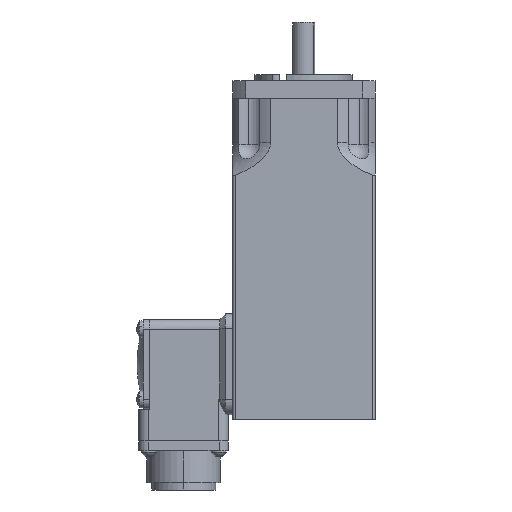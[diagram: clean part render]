
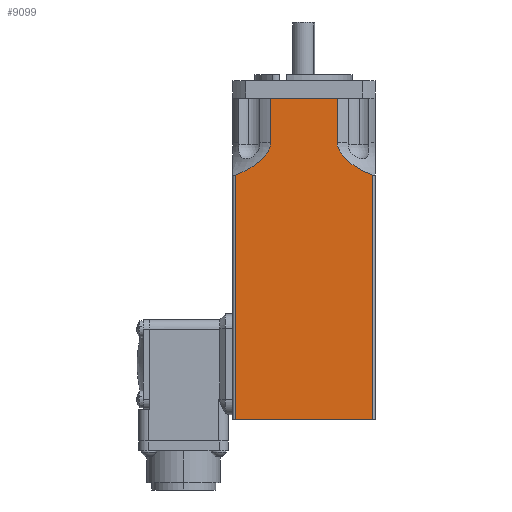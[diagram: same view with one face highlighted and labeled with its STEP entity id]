
A CAD part, left-side view. The second image highlights one B-rep face of the part: STEP entity #9099.
In plain terms, the highlighted planar face has unit normal (-1, 0, 0).
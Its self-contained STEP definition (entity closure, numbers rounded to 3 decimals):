
#9099 = ADVANCED_FACE ( 'NONE', ( #11174 ), #11173, .T. ) ;
#9100 = EDGE_LOOP ( 'NONE', ( #9101, #9102, #9104, #9105, #9107, #9108, #9109, #9111 ) ) ;
#9101 = ORIENTED_EDGE ( 'NONE', *, *, #9179, .T. ) ;
#9102 = ORIENTED_EDGE ( 'NONE', *, *, #9103, .T. ) ;
#9103 = EDGE_CURVE ( 'NONE', #9177, #9186, #11278, .T. ) ;
#9104 = ORIENTED_EDGE ( 'NONE', *, *, #9192, .T. ) ;
#9105 = ORIENTED_EDGE ( 'NONE', *, *, #9106, .T. ) ;
#9106 = EDGE_CURVE ( 'NONE', #9190, #9221, #11418, .T. ) ;
#9107 = ORIENTED_EDGE ( 'NONE', *, *, #9181, .T. ) ;
#9108 = ORIENTED_EDGE ( 'NONE', *, *, #9164, .T. ) ;
#9109 = ORIENTED_EDGE ( 'NONE', *, *, #9110, .F. ) ;
#9110 = EDGE_CURVE ( 'NONE', #9129, #9162, #11414, .T. ) ;
#9111 = ORIENTED_EDGE ( 'NONE', *, *, #9128, .T. ) ;
#9126 = VERTEX_POINT ( 'NONE', #11370 ) ;
#9128 = EDGE_CURVE ( 'NONE', #9129, #9126, #11369, .T. ) ;
#9129 = VERTEX_POINT ( 'NONE', #11427 ) ;
#9162 = VERTEX_POINT ( 'NONE', #11308 ) ;
#9164 = EDGE_CURVE ( 'NONE', #9165, #9162, #11289, .T. ) ;
#9165 = VERTEX_POINT ( 'NONE', #11406 ) ;
#9177 = VERTEX_POINT ( 'NONE', #11455 ) ;
#9179 = EDGE_CURVE ( 'NONE', #9126, #9177, #11454, .T. ) ;
#9181 = EDGE_CURVE ( 'NONE', #9221, #9165, #11238, .T. ) ;
#9186 = VERTEX_POINT ( 'NONE', #11223 ) ;
#9190 = VERTEX_POINT ( 'NONE', #11217 ) ;
#9192 = EDGE_CURVE ( 'NONE', #9186, #9190, #11216, .T. ) ;
#9221 = VERTEX_POINT ( 'NONE', #11622 ) ;
#11112 = DIRECTION ( 'NONE',  ( 0., -1., 0. ) ) ;
#11113 = DIRECTION ( 'NONE',  ( -1., 0., 0. ) ) ;
#11114 = AXIS2_PLACEMENT_3D ( 'NONE', #11172, #11113, #11112 ) ;
#11172 = CARTESIAN_POINT ( 'NONE',  ( -29., -28., -133. ) ) ;
#11173 = PLANE ( 'NONE',  #11114 ) ;
#11174 = FACE_OUTER_BOUND ( 'NONE', #9100, .T. ) ;
#11213 = DIRECTION ( 'NONE',  ( 0., 0., 1. ) ) ;
#11214 = VECTOR ( 'NONE', #11213, 1000. ) ;
#11215 = CARTESIAN_POINT ( 'NONE',  ( -29., -13.528, 22.566 ) ) ;
#11216 = LINE ( 'NONE', #11215, #11214 ) ;
#11217 = CARTESIAN_POINT ( 'NONE',  ( -29., -13.528, -1. ) ) ;
#11223 = CARTESIAN_POINT ( 'NONE',  ( -29., -13.528, -19. ) ) ;
#11235 = DIRECTION ( 'NONE',  ( 0., 0., -1. ) ) ;
#11236 = VECTOR ( 'NONE', #11235, 1000. ) ;
#11237 = CARTESIAN_POINT ( 'NONE',  ( -29., 13.528, 22.566 ) ) ;
#11238 = LINE ( 'NONE', #11237, #11236 ) ;
#11260 = DIRECTION ( 'NONE',  ( 0., 0., 1. ) ) ;
#11261 = VECTOR ( 'NONE', #11260, 1000. ) ;
#11262 = CARTESIAN_POINT ( 'NONE',  ( -29., -13.528, -19. ) ) ;
#11263 = CARTESIAN_POINT ( 'NONE',  ( -29., -13.528, -19.218 ) ) ;
#11264 = CARTESIAN_POINT ( 'NONE',  ( -29., -13.539, -19.438 ) ) ;
#11265 = CARTESIAN_POINT ( 'NONE',  ( -29., -13.584, -19.871 ) ) ;
#11266 = CARTESIAN_POINT ( 'NONE',  ( -29., -13.617, -20.086 ) ) ;
#11267 = CARTESIAN_POINT ( 'NONE',  ( -29., -13.747, -20.722 ) ) ;
#11268 = CARTESIAN_POINT ( 'NONE',  ( -29., -13.873, -21.137 ) ) ;
#11269 = CARTESIAN_POINT ( 'NONE',  ( -29., -14.356, -22.359 ) ) ;
#11270 = CARTESIAN_POINT ( 'NONE',  ( -29., -14.797, -23.106 ) ) ;
#11271 = CARTESIAN_POINT ( 'NONE',  ( -29., -15.565, -24.165 ) ) ;
#11272 = CARTESIAN_POINT ( 'NONE',  ( -29., -15.838, -24.505 ) ) ;
#11273 = CARTESIAN_POINT ( 'NONE',  ( -29., -16.406, -25.158 ) ) ;
#11274 = CARTESIAN_POINT ( 'NONE',  ( -29., -16.701, -25.473 ) ) ;
#11275 = CARTESIAN_POINT ( 'NONE',  ( -29., -17.618, -26.388 ) ) ;
#11276 = CARTESIAN_POINT ( 'NONE',  ( -29., -18.267, -26.959 ) ) ;
#11277 = CARTESIAN_POINT ( 'NONE',  ( -29., -28., -32.426 ) ) ;
#11278 = B_SPLINE_CURVE_WITH_KNOTS ( 'NONE', 3,
 ( #11277, #11412, #11411, #11410, #11409, #11408, #11407, #11276, #11275, #11274, #11273, #11272, #11271, #11270, #11269, #11268, #11267, #11266, #11265, #11264, #11263, #11262 ),
 .UNSPECIFIED., .F., .F.,
 ( 4, 2, 2, 2, 2, 2, 2, 2, 2, 2, 4 ),
 ( 0.102, 0.107, 0.109, 0.112, 0.115, 0.116, 0.117, 0.12, 0.121, 0.122, 0.122 ),
 .UNSPECIFIED. ) ;
#11289 = B_SPLINE_CURVE_WITH_KNOTS ( 'NONE', 3,
 ( #11400, #11399, #11398, #11397, #11396, #11395, #11394, #11393, #11392, #11391, #11390, #11389, #11388, #11387, #11386, #11385, #11384, #11383, #11382, #11470, #11469, #11468, #11467, #11466 ),
 .UNSPECIFIED., .F., .F.,
 ( 4, 2, 2, 2, 2, 2, 2, 2, 2, 2, 2, 4 ),
 ( 0.004, 0.005, 0.006, 0.007, 0.009, 0.011, 0.013, 0.014, 0.017, 0.019, 0.022, 0.024 ),
 .UNSPECIFIED. ) ;
#11308 = CARTESIAN_POINT ( 'NONE',  ( -29., 28., -32.426 ) ) ;
#11369 = LINE ( 'NONE', #11430, #11429 ) ;
#11370 = CARTESIAN_POINT ( 'NONE',  ( -29., -28., -132. ) ) ;
#11382 = CARTESIAN_POINT ( 'NONE',  ( -29., 22.503, -29.925 ) ) ;
#11383 = CARTESIAN_POINT ( 'NONE',  ( -29., 21.764, -29.484 ) ) ;
#11384 = CARTESIAN_POINT ( 'NONE',  ( -29., 20.327, -28.542 ) ) ;
#11385 = CARTESIAN_POINT ( 'NONE',  ( -29., 19.628, -28.041 ) ) ;
#11386 = CARTESIAN_POINT ( 'NONE',  ( -29., 18.614, -27.235 ) ) ;
#11387 = CARTESIAN_POINT ( 'NONE',  ( -29., 18.282, -26.958 ) ) ;
#11388 = CARTESIAN_POINT ( 'NONE',  ( -29., 17.631, -26.382 ) ) ;
#11389 = CARTESIAN_POINT ( 'NONE',  ( -29., 17.313, -26.084 ) ) ;
#11390 = CARTESIAN_POINT ( 'NONE',  ( -29., 16.392, -25.164 ) ) ;
#11391 = CARTESIAN_POINT ( 'NONE',  ( -29., 15.82, -24.516 ) ) ;
#11392 = CARTESIAN_POINT ( 'NONE',  ( -29., 15.057, -23.465 ) ) ;
#11393 = CARTESIAN_POINT ( 'NONE',  ( -29., 14.818, -23.099 ) ) ;
#11394 = CARTESIAN_POINT ( 'NONE',  ( -29., 14.385, -22.339 ) ) ;
#11395 = CARTESIAN_POINT ( 'NONE',  ( -29., 14.194, -21.949 ) ) ;
#11396 = CARTESIAN_POINT ( 'NONE',  ( -29., 13.876, -21.143 ) ) ;
#11397 = CARTESIAN_POINT ( 'NONE',  ( -29., 13.748, -20.727 ) ) ;
#11398 = CARTESIAN_POINT ( 'NONE',  ( -29., 13.572, -19.866 ) ) ;
#11399 = CARTESIAN_POINT ( 'NONE',  ( -29., 13.528, -19.434 ) ) ;
#11400 = CARTESIAN_POINT ( 'NONE',  ( -29., 13.528, -19. ) ) ;
#11406 = CARTESIAN_POINT ( 'NONE',  ( -29., 13.528, -19. ) ) ;
#11407 = CARTESIAN_POINT ( 'NONE',  ( -29., -19.626, -28.04 ) ) ;
#11408 = CARTESIAN_POINT ( 'NONE',  ( -29., -20.333, -28.547 ) ) ;
#11409 = CARTESIAN_POINT ( 'NONE',  ( -29., -21.786, -29.498 ) ) ;
#11410 = CARTESIAN_POINT ( 'NONE',  ( -29., -22.533, -29.942 ) ) ;
#11411 = CARTESIAN_POINT ( 'NONE',  ( -29., -24.808, -31.172 ) ) ;
#11412 = CARTESIAN_POINT ( 'NONE',  ( -29., -26.377, -31.865 ) ) ;
#11413 = CARTESIAN_POINT ( 'NONE',  ( -29., 28., -133. ) ) ;
#11414 = LINE ( 'NONE', #11413, #11261 ) ;
#11415 = DIRECTION ( 'NONE',  ( 0., 1., 0. ) ) ;
#11416 = VECTOR ( 'NONE', #11415, 1000. ) ;
#11417 = CARTESIAN_POINT ( 'NONE',  ( -29., -28., -1. ) ) ;
#11418 = LINE ( 'NONE', #11417, #11416 ) ;
#11427 = CARTESIAN_POINT ( 'NONE',  ( -29., 28., -132. ) ) ;
#11428 = DIRECTION ( 'NONE',  ( 0., -1., 0. ) ) ;
#11429 = VECTOR ( 'NONE', #11428, 1000. ) ;
#11430 = CARTESIAN_POINT ( 'NONE',  ( -29., -28., -132. ) ) ;
#11451 = DIRECTION ( 'NONE',  ( 0., 0., 1. ) ) ;
#11452 = VECTOR ( 'NONE', #11451, 1000. ) ;
#11453 = CARTESIAN_POINT ( 'NONE',  ( -29., -28., -133. ) ) ;
#11454 = LINE ( 'NONE', #11453, #11452 ) ;
#11455 = CARTESIAN_POINT ( 'NONE',  ( -29., -28., -32.426 ) ) ;
#11466 = CARTESIAN_POINT ( 'NONE',  ( -29., 28., -32.426 ) ) ;
#11467 = CARTESIAN_POINT ( 'NONE',  ( -29., 27.188, -32.145 ) ) ;
#11468 = CARTESIAN_POINT ( 'NONE',  ( -29., 26.385, -31.829 ) ) ;
#11469 = CARTESIAN_POINT ( 'NONE',  ( -29., 24.798, -31.129 ) ) ;
#11470 = CARTESIAN_POINT ( 'NONE',  ( -29., 24.019, -30.746 ) ) ;
#11622 = CARTESIAN_POINT ( 'NONE',  ( -29., 13.528, -1. ) ) ;
